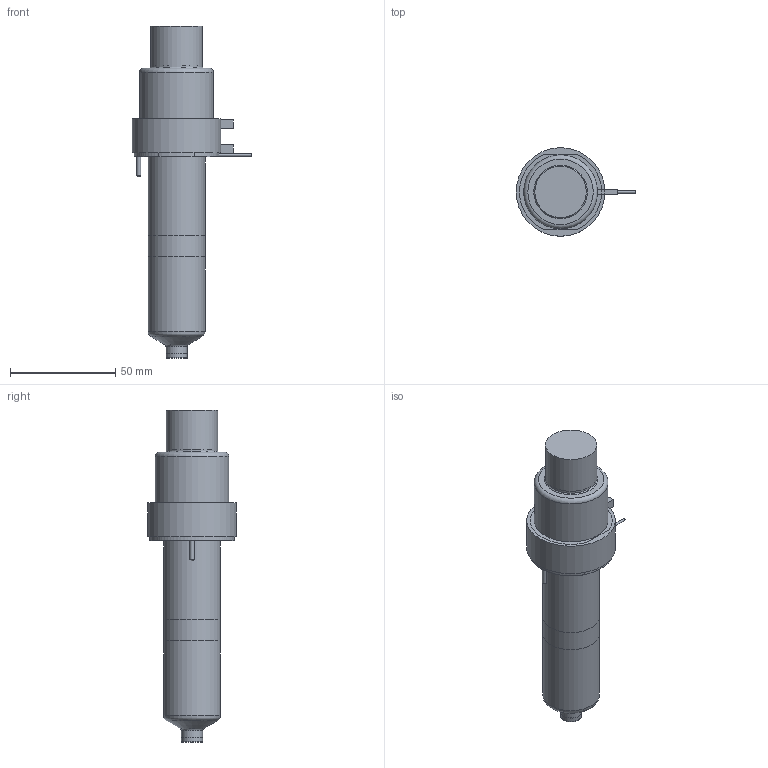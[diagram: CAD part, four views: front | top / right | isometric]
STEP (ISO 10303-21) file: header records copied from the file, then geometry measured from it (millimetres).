
FILE_DESCRIPTION(/* description */ (''),/* implementation_level */ '2;1');
FILE_NAME(/* name */ 'SXTBN-SXIBN-SXOBN13095_200C_b',/* time_stamp */ '2007-01-24T17:16:46+13:00',/* author */ (''),/* organization */ (''),/* preprocessor_version */ 'ST-DEVELOPER v9',/* originating_system */ 'UGS - NX 4.0',/* authorisation */ '');
FILE_SCHEMA (('CONFIG_CONTROL_DESIGN'));
Length unit declared in the file: millimetre
Products named in the file (1): SXTBN-SXIBN-SXOBN13095_200C_b
Bounding box: 56.65 x 42 x 157.45 mm (x, y, z)
Volume: 186890 mm3; surface area: 33347.9 mm2
Topology: 7 solids, 7 shells, 92 faces, 180 edges, 116 vertices
Faces by surface type: plane 45, cylinder 28, torus 9, cone 9, bspline 1
Full cylindrical faces by diameter (mm): 0.9 x1, 1 x3, 2 x2, 6 x1, 9.61 x1, 10.01 x2, 12.6 x1, 22.2 x1, 24 x1, 24.4 x1, 27 x2, 31.8 x1, 35 x1, 40 x1, 42 x1
Entity records: 2250 total; most frequent: CARTESIAN_POINT 438, DIRECTION 382, ORIENTED_EDGE 268, AXIS2_PLACEMENT_3D 166, EDGE_LOOP 142, EDGE_CURVE 134, VERTEX_POINT 107, ADVANCED_FACE 92
